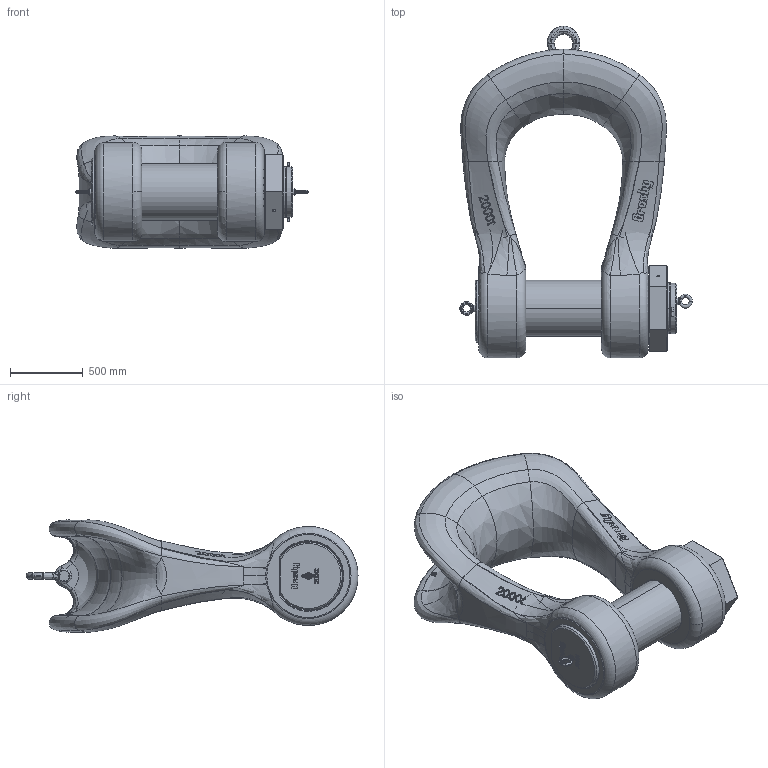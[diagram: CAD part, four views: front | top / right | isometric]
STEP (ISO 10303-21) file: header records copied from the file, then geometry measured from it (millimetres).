
FILE_DESCRIPTION((''),'2;1');
FILE_NAME('1021408_ASM','2024-09-04T11:49:25',('justin.lewis'),('The Crosby Group LLC'),'CREO PARAMETRIC BY PTC INC, 2021304','CREO PARAMETRIC BY PTC INC, 2021304','');
FILE_SCHEMA(('CONFIG_CONTROL_DESIGN','GEOMETRIC_VALIDATION_PROPERTIES_MIM'));
Length unit declared in the file: millimetre
Products named in the file (11): 0829-002000-D000-11; 0829-012000-D000-11; 3706919; 1046029; 1502655; 1800092; 88313; 65002; 1019668_ASM; 3707985; 1021408_ASM
Assembly tree (11 placements, depth 3):
  1021408_ASM
    0829-002000-D000-11
    0829-012000-D000-11
    3706919
    1046029  x2
    1019668_ASM
      1502655
      1800092
      88313
      65002
    3707985
Bounding box: 1597.34 x 2278.75 x 769.74 mm (x, y, z)
Volume: 685559990.1 mm3; surface area: 11835786.7 mm2
Topology: 10 solids, 21 shells, 2450 faces, 9816 edges, 8204 vertices
Faces by surface type: plane 892, extrusion 802, bspline 494, torus 112, cylinder 76, cone 74
Entity records: 254190 total; most frequent: CARTESIAN_POINT 163813, ORIENTED_EDGE 10464, PRESENTATION_STYLE_ASSIGNMENT 10419, STYLED_ITEM 10419, CURVE_STYLE 8419, DIRECTION 6330, EDGE_CURVE 5256, B_SPLINE_CURVE_WITH_KNOTS 4958
